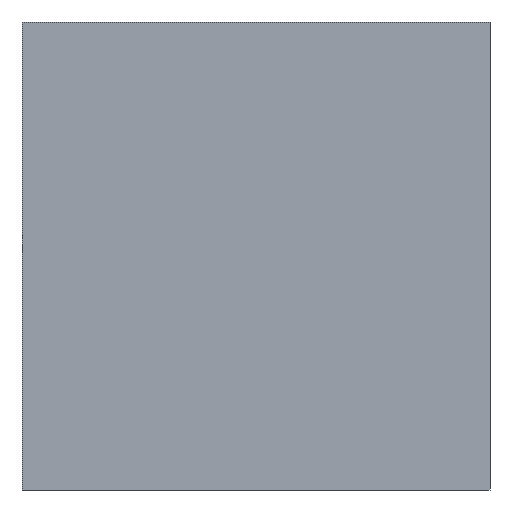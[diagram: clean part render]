
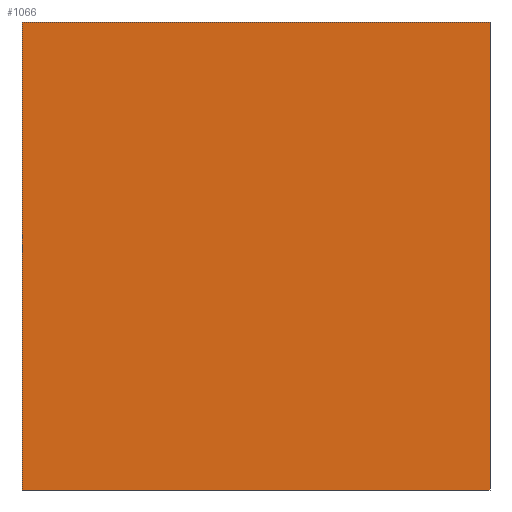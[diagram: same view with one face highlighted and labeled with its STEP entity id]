
A CAD part, front view. The second image highlights one B-rep face of the part: STEP entity #1066.
In plain terms, the highlighted planar face has unit normal (0, -1, 0).
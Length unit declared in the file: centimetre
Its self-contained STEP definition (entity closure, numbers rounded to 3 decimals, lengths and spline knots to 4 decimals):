
#94 = ORIENTED_EDGE ( 'NONE', *, *, #202, .F. ) ;
#135 = VECTOR ( 'NONE', #878, 100. ) ;
#174 = CARTESIAN_POINT ( 'NONE',  ( 1000., 0., 0. ) ) ;
#202 = EDGE_CURVE ( 'NONE', #213, #470, #1023, .T. ) ;
#213 = VERTEX_POINT ( 'NONE', #591 ) ;
#228 = ORIENTED_EDGE ( 'NONE', *, *, #1030, .F. ) ;
#250 = VECTOR ( 'NONE', #435, 100. ) ;
#282 = LINE ( 'NONE', #454, #980 ) ;
#294 = DIRECTION ( 'NONE',  ( 0., 1., 0. ) ) ;
#302 = EDGE_CURVE ( 'NONE', #1073, #928, #282, .T. ) ;
#363 = CARTESIAN_POINT ( 'NONE',  ( 0., 0., 1000. ) ) ;
#377 = FACE_OUTER_BOUND ( 'NONE', #379, .T. ) ;
#379 = EDGE_LOOP ( 'NONE', ( #1010, #94, #228, #846 ) ) ;
#381 = AXIS2_PLACEMENT_3D ( 'NONE', #554, #294, #898 ) ;
#435 = DIRECTION ( 'NONE',  ( 1., 0., 0. ) ) ;
#441 = EDGE_CURVE ( 'NONE', #928, #470, #532, .T. ) ;
#450 = LINE ( 'NONE', #363, #250 ) ;
#454 = CARTESIAN_POINT ( 'NONE',  ( 0., 0., 1000. ) ) ;
#460 = DIRECTION ( 'NONE',  ( 0., 0., -1. ) ) ;
#470 = VERTEX_POINT ( 'NONE', #174 ) ;
#532 = LINE ( 'NONE', #817, #135 ) ;
#554 = CARTESIAN_POINT ( 'NONE',  ( 0., 0., 1000. ) ) ;
#591 = CARTESIAN_POINT ( 'NONE',  ( 1000., 0., 1000. ) ) ;
#601 = CARTESIAN_POINT ( 'NONE',  ( 1000., 0., 1000. ) ) ;
#628 = CARTESIAN_POINT ( 'NONE',  ( 0., 0., 0. ) ) ;
#640 = CARTESIAN_POINT ( 'NONE',  ( 0., 0., 1000. ) ) ;
#646 = PLANE ( 'NONE',  #381 ) ;
#766 = VECTOR ( 'NONE', #844, 100. ) ;
#817 = CARTESIAN_POINT ( 'NONE',  ( 0., 0., 0. ) ) ;
#844 = DIRECTION ( 'NONE',  ( 0., 0., -1. ) ) ;
#846 = ORIENTED_EDGE ( 'NONE', *, *, #302, .T. ) ;
#878 = DIRECTION ( 'NONE',  ( 1., 0., 0. ) ) ;
#898 = DIRECTION ( 'NONE',  ( 0., 0., 1. ) ) ;
#928 = VERTEX_POINT ( 'NONE', #628 ) ;
#980 = VECTOR ( 'NONE', #460, 100. ) ;
#1010 = ORIENTED_EDGE ( 'NONE', *, *, #441, .T. ) ;
#1023 = LINE ( 'NONE', #601, #766 ) ;
#1030 = EDGE_CURVE ( 'NONE', #1073, #213, #450, .T. ) ;
#1066 = ADVANCED_FACE ( 'NONE', ( #377 ), #646, .F. ) ;
#1073 = VERTEX_POINT ( 'NONE', #640 ) ;
